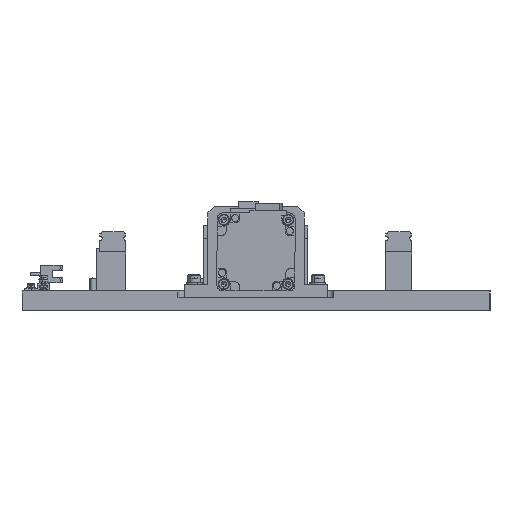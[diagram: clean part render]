
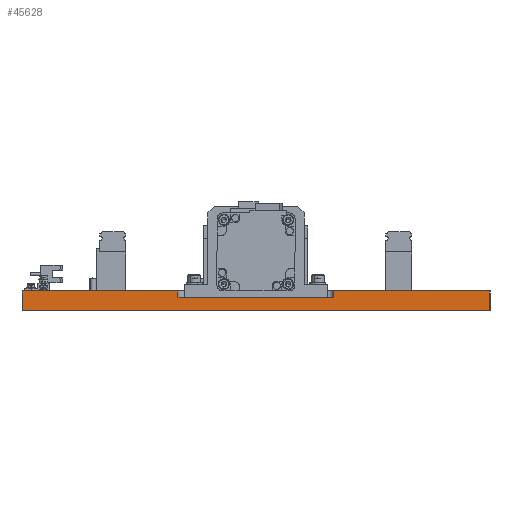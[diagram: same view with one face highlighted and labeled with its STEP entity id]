
A CAD part, front view. The second image highlights one B-rep face of the part: STEP entity #45628.
In plain terms, the highlighted planar face has unit normal (0, -1, 0) as drawn and (0, 0, 1) by its records, which use the part's own axes.
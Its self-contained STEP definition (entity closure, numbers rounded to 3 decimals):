
#1320 = DIRECTION ( 'NONE',  ( 1., 0., 0. ) ) ;
#2020 = VERTEX_POINT ( 'NONE', #48943 ) ;
#2656 = DIRECTION ( 'NONE',  ( -1., 0., 0. ) ) ;
#2873 = VERTEX_POINT ( 'NONE', #35563 ) ;
#2996 = VECTOR ( 'NONE', #1320, 1000. ) ;
#3523 = CARTESIAN_POINT ( 'NONE',  ( -360., 0., 0. ) ) ;
#4088 = EDGE_CURVE ( 'NONE', #4878, #57629, #18924, .T. ) ;
#4143 = VERTEX_POINT ( 'NONE', #51887 ) ;
#4857 = VECTOR ( 'NONE', #39313, 1000. ) ;
#4878 = VERTEX_POINT ( 'NONE', #15402 ) ;
#6183 = CARTESIAN_POINT ( 'NONE',  ( -120., 15., 0. ) ) ;
#7431 = PLANE ( 'NONE',  #17635 ) ;
#7711 = LINE ( 'NONE', #3523, #4857 ) ;
#9655 = CARTESIAN_POINT ( 'NONE',  ( -360., 15., 0. ) ) ;
#10481 = EDGE_CURVE ( 'NONE', #57629, #24978, #45696, .T. ) ;
#10924 = EDGE_CURVE ( 'NONE', #24978, #4143, #25678, .T. ) ;
#11158 = DIRECTION ( 'NONE',  ( 0., 1., 0. ) ) ;
#14196 = ORIENTED_EDGE ( 'NONE', *, *, #10481, .F. ) ;
#15402 = CARTESIAN_POINT ( 'NONE',  ( -240., 10., 0. ) ) ;
#17635 = AXIS2_PLACEMENT_3D ( 'NONE', #43576, #29303, #2656 ) ;
#18924 = LINE ( 'NONE', #55299, #23849 ) ;
#19046 = ORIENTED_EDGE ( 'NONE', *, *, #32619, .F. ) ;
#19459 = VECTOR ( 'NONE', #11158, 1000. ) ;
#19514 = CARTESIAN_POINT ( 'NONE',  ( -240., 15., 0. ) ) ;
#20136 = ORIENTED_EDGE ( 'NONE', *, *, #20189, .F. ) ;
#20189 = EDGE_CURVE ( 'NONE', #2020, #30285, #54185, .T. ) ;
#21403 = VECTOR ( 'NONE', #32513, 1000. ) ;
#22207 = CARTESIAN_POINT ( 'NONE',  ( -360., 0., 0. ) ) ;
#22773 = DIRECTION ( 'NONE',  ( 1., 0., 0. ) ) ;
#23849 = VECTOR ( 'NONE', #32647, 1000. ) ;
#24978 = VERTEX_POINT ( 'NONE', #41713 ) ;
#25678 = LINE ( 'NONE', #9655, #2996 ) ;
#28796 = DIRECTION ( 'NONE',  ( 0., -1., 0. ) ) ;
#29303 = DIRECTION ( 'NONE',  ( 0., 0., -1. ) ) ;
#30285 = VERTEX_POINT ( 'NONE', #19514 ) ;
#30771 = EDGE_CURVE ( 'NONE', #4143, #2873, #52799, .T. ) ;
#31426 = CARTESIAN_POINT ( 'NONE',  ( -360., 15., 0. ) ) ;
#31928 = EDGE_CURVE ( 'NONE', #30285, #4878, #47619, .T. ) ;
#32513 = DIRECTION ( 'NONE',  ( 0., -1., 0. ) ) ;
#32619 = EDGE_CURVE ( 'NONE', #2873, #49957, #7711, .T. ) ;
#32647 = DIRECTION ( 'NONE',  ( 1., 0., 0. ) ) ;
#34597 = ORIENTED_EDGE ( 'NONE', *, *, #31928, .F. ) ;
#35563 = CARTESIAN_POINT ( 'NONE',  ( 0., 0., 0. ) ) ;
#36352 = CARTESIAN_POINT ( 'NONE',  ( -240., 15., 0. ) ) ;
#37821 = CARTESIAN_POINT ( 'NONE',  ( 0., 15., 0. ) ) ;
#39313 = DIRECTION ( 'NONE',  ( -1., 0., 0. ) ) ;
#40019 = VECTOR ( 'NONE', #42783, 1000. ) ;
#41391 = ORIENTED_EDGE ( 'NONE', *, *, #10924, .F. ) ;
#41713 = CARTESIAN_POINT ( 'NONE',  ( -120., 15., 0. ) ) ;
#42783 = DIRECTION ( 'NONE',  ( 0., -1., 0. ) ) ;
#43576 = CARTESIAN_POINT ( 'NONE',  ( -360., 15., 0. ) ) ;
#43733 = ORIENTED_EDGE ( 'NONE', *, *, #50651, .T. ) ;
#44184 = ORIENTED_EDGE ( 'NONE', *, *, #30771, .F. ) ;
#45240 = ORIENTED_EDGE ( 'NONE', *, *, #4088, .F. ) ;
#45628 = ADVANCED_FACE ( 'NONE', ( #56665 ), #7431, .F. ) ;
#45696 = LINE ( 'NONE', #6183, #19459 ) ;
#47619 = LINE ( 'NONE', #36352, #21403 ) ;
#48501 = LINE ( 'NONE', #55988, #57756 ) ;
#48943 = CARTESIAN_POINT ( 'NONE',  ( -360., 15., 0. ) ) ;
#49957 = VERTEX_POINT ( 'NONE', #22207 ) ;
#50651 = EDGE_CURVE ( 'NONE', #2020, #49957, #48501, .T. ) ;
#51887 = CARTESIAN_POINT ( 'NONE',  ( 0., 15., 0. ) ) ;
#52799 = LINE ( 'NONE', #37821, #40019 ) ;
#54185 = LINE ( 'NONE', #31426, #56285 ) ;
#55299 = CARTESIAN_POINT ( 'NONE',  ( -360., 10., 0. ) ) ;
#55988 = CARTESIAN_POINT ( 'NONE',  ( -360., 15., 0. ) ) ;
#56285 = VECTOR ( 'NONE', #22773, 1000. ) ;
#56422 = CARTESIAN_POINT ( 'NONE',  ( -120., 10., 0. ) ) ;
#56665 = FACE_OUTER_BOUND ( 'NONE', #56759, .T. ) ;
#56759 = EDGE_LOOP ( 'NONE', ( #20136, #43733, #19046, #44184, #41391, #14196, #45240, #34597 ) ) ;
#57629 = VERTEX_POINT ( 'NONE', #56422 ) ;
#57756 = VECTOR ( 'NONE', #28796, 1000. ) ;
